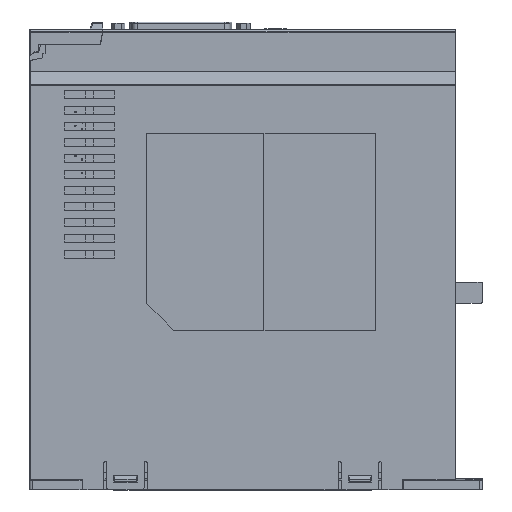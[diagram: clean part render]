
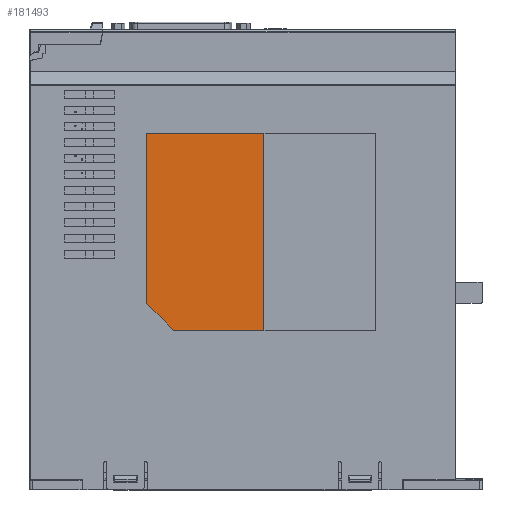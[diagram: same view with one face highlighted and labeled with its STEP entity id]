
A CAD part, left-side view. The second image highlights one B-rep face of the part: STEP entity #181493.
In plain terms, the highlighted planar face has unit normal (-1, 0, 0).
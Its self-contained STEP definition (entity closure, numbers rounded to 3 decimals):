
#56400=DIRECTION('',(0.,0.,-1.));
#56401=VECTOR('',#56400,74.);
#56402=CARTESIAN_POINT('',(-25.2,-8.,134.));
#56403=LINE('',#56402,#56401);
#56404=DIRECTION('',(0.,0.707,0.707));
#56405=VECTOR('',#56404,14.142);
#56406=CARTESIAN_POINT('',(-25.2,26.,60.));
#56407=LINE('',#56406,#56405);
#56408=DIRECTION('',(0.,-1.,0.));
#56409=VECTOR('',#56408,44.);
#56410=CARTESIAN_POINT('',(-25.2,36.,134.));
#56411=LINE('',#56410,#56409);
#56420=DIRECTION('',(0.,-1.,0.));
#56421=VECTOR('',#56420,34.);
#56422=CARTESIAN_POINT('',(-25.2,26.,60.));
#56423=LINE('',#56422,#56421);
#56436=DIRECTION('',(0.,0.,-1.));
#56437=VECTOR('',#56436,64.);
#56438=CARTESIAN_POINT('',(-25.2,36.,134.));
#56439=LINE('',#56438,#56437);
#71108=CARTESIAN_POINT('',(-25.2,-8.,134.));
#71109=VERTEX_POINT('',#71108);
#71112=CARTESIAN_POINT('',(-25.2,-8.,60.));
#71113=VERTEX_POINT('',#71112);
#71114=CARTESIAN_POINT('',(-25.2,26.,60.));
#71115=VERTEX_POINT('',#71114);
#71116=CARTESIAN_POINT('',(-25.2,36.,70.));
#71117=VERTEX_POINT('',#71116);
#71118=CARTESIAN_POINT('',(-25.2,36.,134.));
#71119=VERTEX_POINT('',#71118);
#181478=CARTESIAN_POINT('',(-25.2,14.,97.));
#181479=DIRECTION('',(1.,0.,0.));
#181480=DIRECTION('',(0.,-1.,0.));
#181481=AXIS2_PLACEMENT_3D('',#181478,#181479,#181480);
#181482=PLANE('',#181481);
#181483=ORIENTED_EDGE('',*,*,#181457,.T.);
#181485=ORIENTED_EDGE('',*,*,#181484,.F.);
#181487=ORIENTED_EDGE('',*,*,#181486,.T.);
#181489=ORIENTED_EDGE('',*,*,#181488,.F.);
#181490=ORIENTED_EDGE('',*,*,#181437,.T.);
#181491=EDGE_LOOP('',(#181483,#181485,#181487,#181489,#181490));
#181492=FACE_OUTER_BOUND('',#181491,.F.);
#181437=EDGE_CURVE('',#71119,#71109,#56411,.T.);
#181457=EDGE_CURVE('',#71109,#71113,#56403,.T.);
#181484=EDGE_CURVE('',#71115,#71113,#56423,.T.);
#181486=EDGE_CURVE('',#71115,#71117,#56407,.T.);
#181488=EDGE_CURVE('',#71119,#71117,#56439,.T.);
#181493=ADVANCED_FACE('',(#181492),#181482,.F.);
